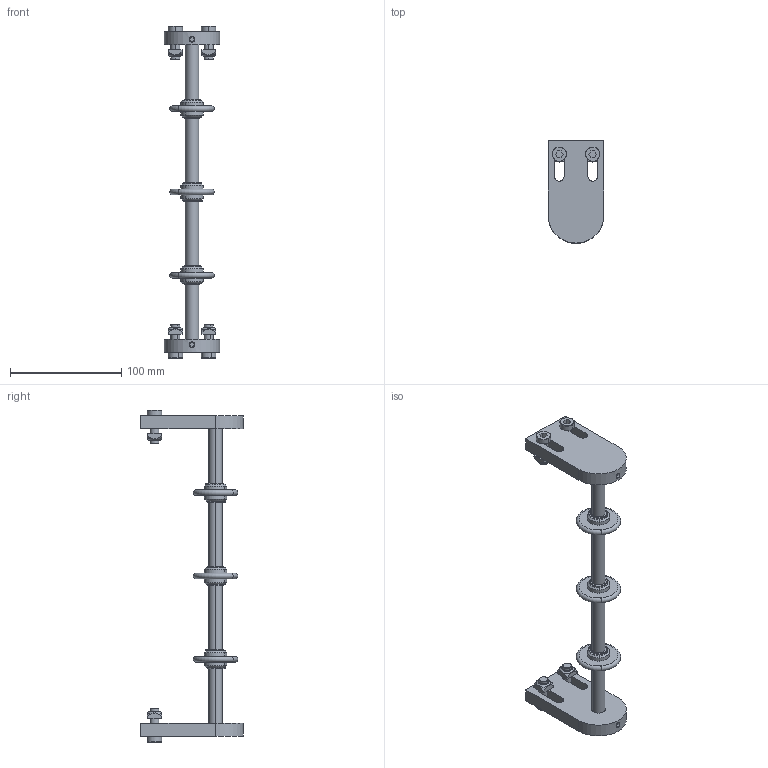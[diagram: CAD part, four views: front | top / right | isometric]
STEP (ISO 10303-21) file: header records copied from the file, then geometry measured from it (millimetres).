
FILE_DESCRIPTION (( 'STEP AP203' ), '1' );
FILE_NAME ('084.095.KSW.STEP', '2018-03-12T15:29:54', ( '' ), ( '' ), 'SwSTEP 2.0', 'SolidWorks 2016', '' );
FILE_SCHEMA (( 'CONFIG_CONTROL_DESIGN' ));
Length unit declared in the file: millimetre
Products named in the file (8): circlip for shafts normal_din_Circlip DIN 471 - 12 x 1; GRANI A PUNTA PIATTA UNI 5923_M6x16 UNI 5923; 084.302.000 DADI ALUSIC 13x13-1_084.302.004; 084.802.030; Parte359^084.095.KSW.230; 084.802.041; 084.301.000 VITI ALUSIC_084.301.004; 084.095.KSW
Assembly tree (22 placements, depth 2):
  084.095.KSW
    Parte359^084.095.KSW.230
    084.802.041  x3
    084.802.030  x2
    circlip for shafts normal_din_Circlip DIN 471 - 12 x 1  x6
    GRANI A PUNTA PIATTA UNI 5923_M6x16 UNI 5923  x2
    084.301.000 VITI ALUSIC_084.301.004  x4
    084.302.000 DADI ALUSIC 13x13-1_084.302.004  x4
Bounding box: 50 x 92.5 x 299 mm (x, y, z)
Volume: 155472.2 mm3; surface area: 57937.1 mm2
Topology: 22 solids, 22 shells, 420 faces, 1030 edges, 672 vertices
Faces by surface type: cylinder 178, plane 152, torus 38, cone 36, bspline 16
Entity records: 5214 total; most frequent: CARTESIAN_POINT 1121, DIRECTION 636, ORIENTED_EDGE 560, EDGE_CURVE 280, AXIS2_PLACEMENT_3D 251, VERTEX_POINT 182, EDGE_LOOP 138, VECTOR 134
